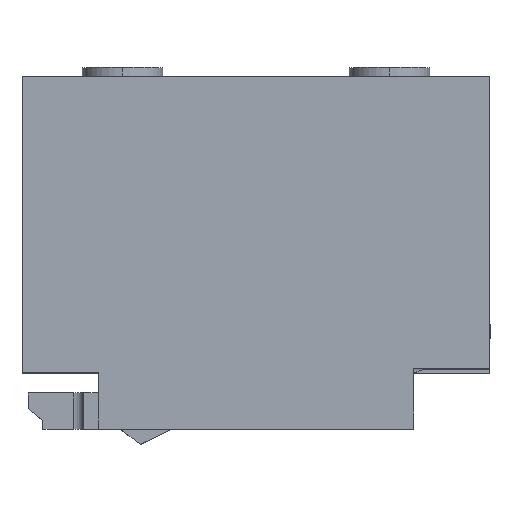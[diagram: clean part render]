
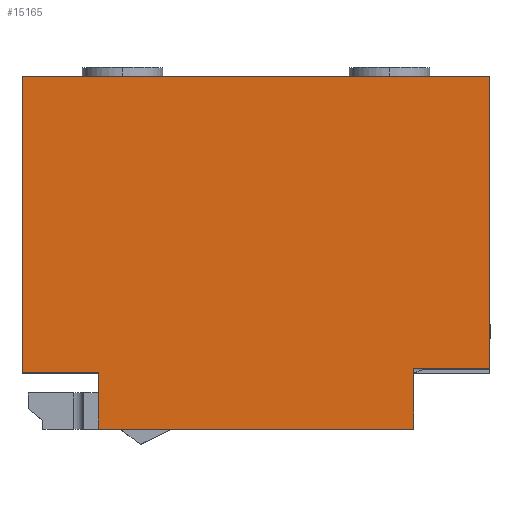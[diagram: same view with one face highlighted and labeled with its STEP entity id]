
A CAD part, top view. The second image highlights one B-rep face of the part: STEP entity #15165.
In plain terms, the highlighted planar face has unit normal (0, 0, 1).
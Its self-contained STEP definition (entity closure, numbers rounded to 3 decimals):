
#1978 = LINE ( 'NONE', #25999, #1984 ) ;
#1984 = VECTOR ( 'NONE', #26000, 1000. ) ;
#2126 = LINE ( 'NONE', #26121, #2132 ) ;
#2132 = VECTOR ( 'NONE', #26123, 1000. ) ;
#2390 = LINE ( 'NONE', #26264, #2400 ) ;
#2398 = LINE ( 'NONE', #20594, #2404 ) ;
#2400 = VECTOR ( 'NONE', #20593, 1000. ) ;
#2402 = LINE ( 'NONE', #20596, #2408 ) ;
#2404 = VECTOR ( 'NONE', #20595, 1000. ) ;
#2406 = LINE ( 'NONE', #20598, #2412 ) ;
#2408 = VECTOR ( 'NONE', #20597, 1000. ) ;
#2412 = VECTOR ( 'NONE', #20599, 1000. ) ;
#2823 = LINE ( 'NONE', #13501, #2827 ) ;
#2827 = VECTOR ( 'NONE', #13502, 1000. ) ;
#3308 = EDGE_CURVE ( 'NONE', #12109, #12114, #21526, .T. ) ;
#6504 = ORIENTED_EDGE ( 'NONE', *, *, #9356, .T. ) ;
#6506 = ORIENTED_EDGE ( 'NONE', *, *, #3308, .T. ) ;
#6508 = ORIENTED_EDGE ( 'NONE', *, *, #9247, .T. ) ;
#6510 = ORIENTED_EDGE ( 'NONE', *, *, #9355, .T. ) ;
#6512 = ORIENTED_EDGE ( 'NONE', *, *, #9284, .T. ) ;
#6513 = ORIENTED_EDGE ( 'NONE', *, *, #9354, .T. ) ;
#6514 = ORIENTED_EDGE ( 'NONE', *, *, #9353, .T. ) ;
#6515 = ORIENTED_EDGE ( 'NONE', *, *, #9216, .T. ) ;
#9216 = EDGE_CURVE ( 'NONE', #11032, #11033, #2823, .T. ) ;
#9247 = EDGE_CURVE ( 'NONE', #12110, #12109, #1978, .T. ) ;
#9284 = EDGE_CURVE ( 'NONE', #14371, #14369, #2126, .T. ) ;
#9353 = EDGE_CURVE ( 'NONE', #11033, #23110, #2390, .T. ) ;
#9354 = EDGE_CURVE ( 'NONE', #23110, #14371, #2398, .T. ) ;
#9355 = EDGE_CURVE ( 'NONE', #14369, #12110, #2402, .T. ) ;
#9356 = EDGE_CURVE ( 'NONE', #12114, #11032, #2406, .T. ) ;
#10604 = FACE_OUTER_BOUND ( 'NONE', #11940, .T. ) ;
#11032 = VERTEX_POINT ( 'NONE', #20977 ) ;
#11033 = VERTEX_POINT ( 'NONE', #20978 ) ;
#11165 = CARTESIAN_POINT ( 'NONE',  ( 16., -11.8, 10.79 ) ) ;
#11166 = CARTESIAN_POINT ( 'NONE',  ( 16., -17.9, 10.79 ) ) ;
#11170 = CARTESIAN_POINT ( 'NONE',  ( 23.75, -11.8, 10.79 ) ) ;
#11230 = CARTESIAN_POINT ( 'NONE',  ( -16., -17.9, 10.79 ) ) ;
#11232 = CARTESIAN_POINT ( 'NONE',  ( -16., -12.2, 10.79 ) ) ;
#11940 = EDGE_LOOP ( 'NONE', ( #6515, #6514, #6513, #6512, #6510, #6508, #6506, #6504 ) ) ;
#12109 = VERTEX_POINT ( 'NONE', #11165 ) ;
#12110 = VERTEX_POINT ( 'NONE', #11166 ) ;
#12114 = VERTEX_POINT ( 'NONE', #11170 ) ;
#13167 = CARTESIAN_POINT ( 'NONE',  ( 23.75, -11.8, 10.79 ) ) ;
#13170 = DIRECTION ( 'NONE',  ( 1., 0., 0. ) ) ;
#13501 = CARTESIAN_POINT ( 'NONE',  ( -23.75, 17.9, 10.79 ) ) ;
#13502 = DIRECTION ( 'NONE',  ( -1., 0., 0. ) ) ;
#14369 = VERTEX_POINT ( 'NONE', #11230 ) ;
#14371 = VERTEX_POINT ( 'NONE', #11232 ) ;
#15165 = ADVANCED_FACE ( 'NONE', ( #10604 ), #25425, .F. ) ;
#17158 = CARTESIAN_POINT ( 'NONE',  ( -23.75, -12.2, 10.79 ) ) ;
#20593 = DIRECTION ( 'NONE',  ( 0., -1., 0. ) ) ;
#20594 = CARTESIAN_POINT ( 'NONE',  ( -16., -12.2, 10.79 ) ) ;
#20595 = DIRECTION ( 'NONE',  ( 1., 0., 0. ) ) ;
#20596 = CARTESIAN_POINT ( 'NONE',  ( 16., -17.9, 10.79 ) ) ;
#20597 = DIRECTION ( 'NONE',  ( 1., 0., 0. ) ) ;
#20598 = CARTESIAN_POINT ( 'NONE',  ( 23.75, 17.9, 10.79 ) ) ;
#20599 = DIRECTION ( 'NONE',  ( 0., 1., 0. ) ) ;
#20977 = CARTESIAN_POINT ( 'NONE',  ( 23.75, 17.9, 10.79 ) ) ;
#20978 = CARTESIAN_POINT ( 'NONE',  ( -23.75, 17.9, 10.79 ) ) ;
#21526 = LINE ( 'NONE', #13167, #21529 ) ;
#21529 = VECTOR ( 'NONE', #13170, 1000. ) ;
#23110 = VERTEX_POINT ( 'NONE', #17158 ) ;
#25425 = PLANE ( 'NONE',  #25596 ) ;
#25444 = CARTESIAN_POINT ( 'NONE',  ( 0., 0., 10.79 ) ) ;
#25445 = DIRECTION ( 'NONE',  ( 0., 0., -1. ) ) ;
#25446 = DIRECTION ( 'NONE',  ( -1., 0., 0. ) ) ;
#25596 = AXIS2_PLACEMENT_3D ( 'NONE', #25444, #25445, #25446 ) ;
#25999 = CARTESIAN_POINT ( 'NONE',  ( 16., -11.8, 10.79 ) ) ;
#26000 = DIRECTION ( 'NONE',  ( 0., 1., 0. ) ) ;
#26121 = CARTESIAN_POINT ( 'NONE',  ( -16., -17.9, 10.79 ) ) ;
#26123 = DIRECTION ( 'NONE',  ( 0., -1., 0. ) ) ;
#26264 = CARTESIAN_POINT ( 'NONE',  ( -23.75, -12.2, 10.79 ) ) ;
